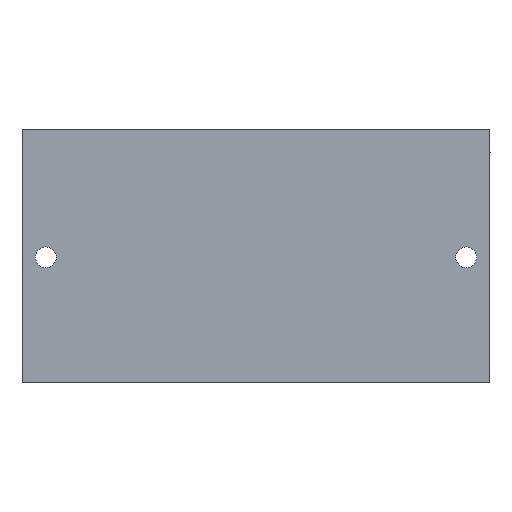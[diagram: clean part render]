
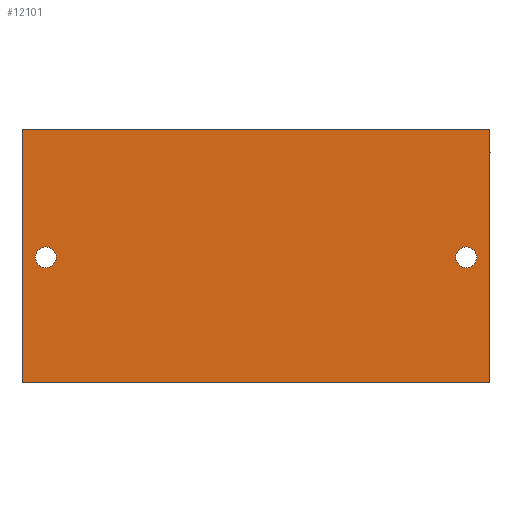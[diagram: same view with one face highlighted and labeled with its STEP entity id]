
A CAD part, front view. The second image highlights one B-rep face of the part: STEP entity #12101.
In plain terms, the highlighted planar face has unit normal (0, -1, 0).
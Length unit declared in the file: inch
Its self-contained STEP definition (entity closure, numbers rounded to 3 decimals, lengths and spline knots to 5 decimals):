
#280 = CARTESIAN_POINT ( 'NONE',  ( 7.005, 0., -2.02 ) ) ;
#455 = VECTOR ( 'NONE', #11790, 39.37008 ) ;
#859 = CIRCLE ( 'NONE', #5876, 0.164 ) ;
#1241 = EDGE_LOOP ( 'NONE', ( #2720, #2916 ) ) ;
#1566 = DIRECTION ( 'NONE',  ( 0., 0., 1. ) ) ;
#1669 = LINE ( 'NONE', #10275, #4709 ) ;
#1842 = DIRECTION ( 'NONE',  ( 0., 0., 1. ) ) ;
#1847 = DIRECTION ( 'NONE',  ( 0., 1., 0. ) ) ;
#1869 = CARTESIAN_POINT ( 'NONE',  ( 0.375, 0., -2.02 ) ) ;
#1874 = VECTOR ( 'NONE', #7011, 39.37008 ) ;
#2309 = EDGE_CURVE ( 'NONE', #7797, #3824, #5601, .T. ) ;
#2359 = CIRCLE ( 'NONE', #15619, 0.164 ) ;
#2531 = EDGE_CURVE ( 'NONE', #7409, #13901, #2359, .T. ) ;
#2614 = CARTESIAN_POINT ( 'NONE',  ( 7.38, 0., -4. ) ) ;
#2720 = ORIENTED_EDGE ( 'NONE', *, *, #12312, .T. ) ;
#2764 = CARTESIAN_POINT ( 'NONE',  ( 0., 0., -4. ) ) ;
#2916 = ORIENTED_EDGE ( 'NONE', *, *, #2309, .T. ) ;
#3402 = CARTESIAN_POINT ( 'NONE',  ( 7.005, 0., -1.856 ) ) ;
#3405 = CARTESIAN_POINT ( 'NONE',  ( 0.375, 0., -2.184 ) ) ;
#3567 = DIRECTION ( 'NONE',  ( 0., 0., 1. ) ) ;
#3695 = ORIENTED_EDGE ( 'NONE', *, *, #12341, .T. ) ;
#3732 = ORIENTED_EDGE ( 'NONE', *, *, #2531, .T. ) ;
#3824 = VERTEX_POINT ( 'NONE', #6295 ) ;
#3888 = LINE ( 'NONE', #14239, #455 ) ;
#3937 = DIRECTION ( 'NONE',  ( -1., 0., 0. ) ) ;
#4335 = ORIENTED_EDGE ( 'NONE', *, *, #12366, .T. ) ;
#4341 = DIRECTION ( 'NONE',  ( -1., 0., 0. ) ) ;
#4709 = VECTOR ( 'NONE', #3937, 39.37008 ) ;
#4979 = VERTEX_POINT ( 'NONE', #2764 ) ;
#5322 = DIRECTION ( 'NONE',  ( 0., 1., 0. ) ) ;
#5601 = CIRCLE ( 'NONE', #15896, 0.164 ) ;
#5720 = ORIENTED_EDGE ( 'NONE', *, *, #12284, .T. ) ;
#5744 = ORIENTED_EDGE ( 'NONE', *, *, #12431, .F. ) ;
#5876 = AXIS2_PLACEMENT_3D ( 'NONE', #280, #9213, #1566 ) ;
#5935 = AXIS2_PLACEMENT_3D ( 'NONE', #12819, #5322, #14084 ) ;
#5976 = ORIENTED_EDGE ( 'NONE', *, *, #12477, .F. ) ;
#6078 = AXIS2_PLACEMENT_3D ( 'NONE', #8623, #11148, #3567 ) ;
#6295 = CARTESIAN_POINT ( 'NONE',  ( 0.375, 0., -1.856 ) ) ;
#6500 = EDGE_LOOP ( 'NONE', ( #4335, #5744, #5976, #5720 ) ) ;
#6640 = VERTEX_POINT ( 'NONE', #2614 ) ;
#7011 = DIRECTION ( 'NONE',  ( 0., 0., -1. ) ) ;
#7409 = VERTEX_POINT ( 'NONE', #10696 ) ;
#7486 = FACE_BOUND ( 'NONE', #8632, .T. ) ;
#7797 = VERTEX_POINT ( 'NONE', #3405 ) ;
#8518 = CARTESIAN_POINT ( 'NONE',  ( 0., 0., 0. ) ) ;
#8623 = CARTESIAN_POINT ( 'NONE',  ( 7.38, 0., 0. ) ) ;
#8632 = EDGE_LOOP ( 'NONE', ( #3695, #3732 ) ) ;
#8654 = LINE ( 'NONE', #10712, #1874 ) ;
#9213 = DIRECTION ( 'NONE',  ( 0., 1., 0. ) ) ;
#9836 = LINE ( 'NONE', #13166, #12375 ) ;
#10275 = CARTESIAN_POINT ( 'NONE',  ( 7.38, 0., 0. ) ) ;
#10696 = CARTESIAN_POINT ( 'NONE',  ( 7.005, 0., -2.184 ) ) ;
#10712 = CARTESIAN_POINT ( 'NONE',  ( 7.38, 0., 0. ) ) ;
#10839 = FACE_OUTER_BOUND ( 'NONE', #6500, .T. ) ;
#11148 = DIRECTION ( 'NONE',  ( 0., 1., 0. ) ) ;
#11790 = DIRECTION ( 'NONE',  ( 0., 0., -1. ) ) ;
#12101 = ADVANCED_FACE ( 'NONE', ( #14511, #7486, #10839 ), #14803, .F. ) ;
#12284 = EDGE_CURVE ( 'NONE', #13474, #13161, #1669, .T. ) ;
#12312 = EDGE_CURVE ( 'NONE', #3824, #7797, #14326, .T. ) ;
#12341 = EDGE_CURVE ( 'NONE', #13901, #7409, #859, .T. ) ;
#12366 = EDGE_CURVE ( 'NONE', #13161, #4979, #3888, .T. ) ;
#12375 = VECTOR ( 'NONE', #4341, 39.37008 ) ;
#12431 = EDGE_CURVE ( 'NONE', #6640, #4979, #9836, .T. ) ;
#12477 = EDGE_CURVE ( 'NONE', #13474, #6640, #8654, .T. ) ;
#12819 = CARTESIAN_POINT ( 'NONE',  ( 0.375, 0., -2.02 ) ) ;
#13161 = VERTEX_POINT ( 'NONE', #8518 ) ;
#13166 = CARTESIAN_POINT ( 'NONE',  ( 7.38, 0., -4. ) ) ;
#13474 = VERTEX_POINT ( 'NONE', #14355 ) ;
#13646 = DIRECTION ( 'NONE',  ( 0., 0., 1. ) ) ;
#13776 = DIRECTION ( 'NONE',  ( 0., 1., 0. ) ) ;
#13828 = CARTESIAN_POINT ( 'NONE',  ( 7.005, 0., -2.02 ) ) ;
#13901 = VERTEX_POINT ( 'NONE', #3402 ) ;
#14084 = DIRECTION ( 'NONE',  ( 0., 0., 1. ) ) ;
#14239 = CARTESIAN_POINT ( 'NONE',  ( 0., 0., 0. ) ) ;
#14326 = CIRCLE ( 'NONE', #5935, 0.164 ) ;
#14355 = CARTESIAN_POINT ( 'NONE',  ( 7.38, 0., 0. ) ) ;
#14511 = FACE_BOUND ( 'NONE', #1241, .T. ) ;
#14803 = PLANE ( 'NONE',  #6078 ) ;
#15619 = AXIS2_PLACEMENT_3D ( 'NONE', #13828, #13776, #13646 ) ;
#15896 = AXIS2_PLACEMENT_3D ( 'NONE', #1869, #1847, #1842 ) ;
